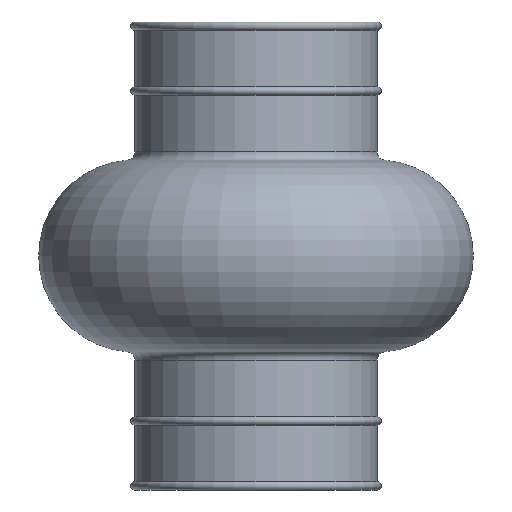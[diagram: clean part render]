
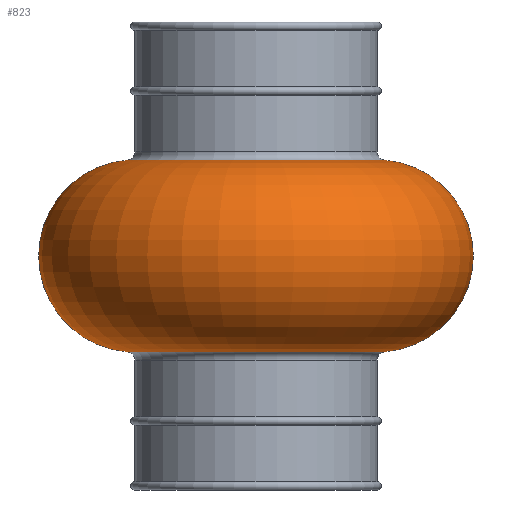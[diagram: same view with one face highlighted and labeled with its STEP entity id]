
A CAD part, left-side view. The second image highlights one B-rep face of the part: STEP entity #823.
In plain terms, the highlighted toroidal (fillet/blend) face has major radius 14.5 mm and minor radius 11.5 mm.
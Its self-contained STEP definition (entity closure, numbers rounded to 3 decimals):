
#23 = DIRECTION ( 'NONE',  ( 0., 1., 0. ) ) ;
#52 = EDGE_LOOP ( 'NONE', ( #159, #388, #665, #459 ) ) ;
#85 = FACE_OUTER_BOUND ( 'NONE', #52, .T. ) ;
#110 = DIRECTION ( 'NONE',  ( 0., 0., 1. ) ) ;
#123 = DIRECTION ( 'NONE',  ( 0., 0., 1. ) ) ;
#159 = ORIENTED_EDGE ( 'NONE', *, *, #308, .F. ) ;
#178 = AXIS2_PLACEMENT_3D ( 'NONE', #702, #842, #110 ) ;
#187 = TOROIDAL_SURFACE ( 'NONE', #778, 14.5, 11.5 ) ;
#233 = AXIS2_PLACEMENT_3D ( 'NONE', #560, #436, #770 ) ;
#261 = VERTEX_POINT ( 'NONE', #389 ) ;
#296 = VERTEX_POINT ( 'NONE', #414 ) ;
#308 = EDGE_CURVE ( 'NONE', #604, #296, #773, .T. ) ;
#388 = ORIENTED_EDGE ( 'NONE', *, *, #558, .T. ) ;
#389 = CARTESIAN_POINT ( 'NONE',  ( 0., 15.42, -11.463 ) ) ;
#401 = CARTESIAN_POINT ( 'NONE',  ( 0., -14.5, 0. ) ) ;
#414 = CARTESIAN_POINT ( 'NONE',  ( 0., -15.42, -11.463 ) ) ;
#436 = DIRECTION ( 'NONE',  ( 0., 0., -1. ) ) ;
#459 = ORIENTED_EDGE ( 'NONE', *, *, #844, .T. ) ;
#464 = CIRCLE ( 'NONE', #233, 15.42 ) ;
#484 = CARTESIAN_POINT ( 'NONE',  ( 0., -15.42, 11.463 ) ) ;
#498 = VERTEX_POINT ( 'NONE', #840 ) ;
#535 = EDGE_CURVE ( 'NONE', #498, #261, #563, .T. ) ;
#558 = EDGE_CURVE ( 'NONE', #604, #498, #464, .T. ) ;
#560 = CARTESIAN_POINT ( 'NONE',  ( 0., 0., 11.463 ) ) ;
#563 = CIRCLE ( 'NONE', #178, 11.5 ) ;
#569 = DIRECTION ( 'NONE',  ( 0., 1., 0. ) ) ;
#575 = DIRECTION ( 'NONE',  ( 0., 0., -1. ) ) ;
#590 = CIRCLE ( 'NONE', #717, 15.42 ) ;
#604 = VERTEX_POINT ( 'NONE', #484 ) ;
#607 = CARTESIAN_POINT ( 'NONE',  ( 0., 0., 0. ) ) ;
#609 = DIRECTION ( 'NONE',  ( 0., -1., 0. ) ) ;
#616 = DIRECTION ( 'NONE',  ( 1., 0., 0. ) ) ;
#660 = AXIS2_PLACEMENT_3D ( 'NONE', #401, #616, #23 ) ;
#665 = ORIENTED_EDGE ( 'NONE', *, *, #535, .T. ) ;
#692 = CARTESIAN_POINT ( 'NONE',  ( 0., 0., -11.463 ) ) ;
#702 = CARTESIAN_POINT ( 'NONE',  ( 0., 14.5, 0. ) ) ;
#717 = AXIS2_PLACEMENT_3D ( 'NONE', #692, #123, #609 ) ;
#770 = DIRECTION ( 'NONE',  ( 0., 1., 0. ) ) ;
#773 = CIRCLE ( 'NONE', #660, 11.5 ) ;
#778 = AXIS2_PLACEMENT_3D ( 'NONE', #607, #575, #569 ) ;
#823 = ADVANCED_FACE ( 'NONE', ( #85 ), #187, .T. ) ;
#840 = CARTESIAN_POINT ( 'NONE',  ( 0., 15.42, 11.463 ) ) ;
#842 = DIRECTION ( 'NONE',  ( -1., 0., 0. ) ) ;
#844 = EDGE_CURVE ( 'NONE', #261, #296, #590, .T. ) ;
